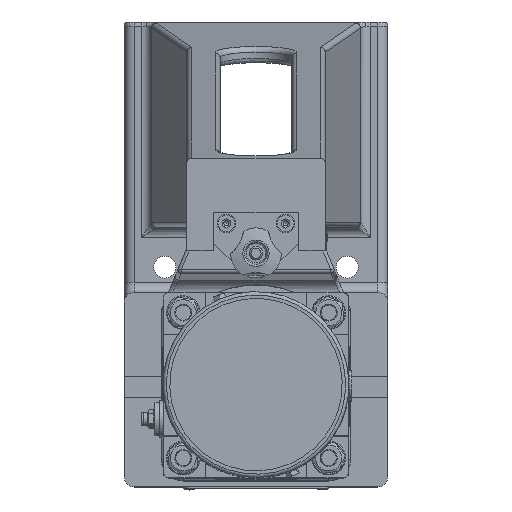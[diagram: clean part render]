
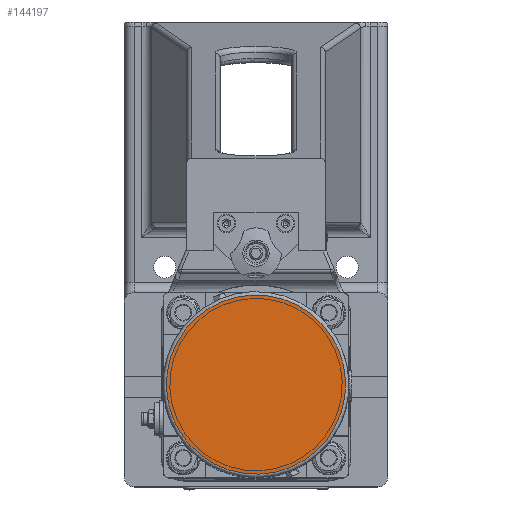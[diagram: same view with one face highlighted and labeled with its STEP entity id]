
A CAD part, top view. The second image highlights one B-rep face of the part: STEP entity #144197.
In plain terms, the highlighted planar face has unit normal (0, 0, 1).
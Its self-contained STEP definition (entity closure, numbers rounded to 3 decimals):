
#38404=PLANE('',#151459);
#45376=FACE_OUTER_BOUND('',#53093,.T.);
#53093=EDGE_LOOP('',(#111968));
#58361=CIRCLE('',#151458,53.);
#65372=VERTEX_POINT('',#213254);
#82133=EDGE_CURVE('',#65372,#65372,#58361,.T.);
#111968=ORIENTED_EDGE('',*,*,#82133,.F.);
#144197=ADVANCED_FACE('',(#45376),#38404,.F.);
#151458=AXIS2_PLACEMENT_3D('',#213255,#168612,#168613);
#151459=AXIS2_PLACEMENT_3D('',#213256,#168614,#168615);
#168612=DIRECTION('center_axis',(0.,0.,
-1.));
#168613=DIRECTION('ref_axis',(-0.924,-0.383,0.));
#168614=DIRECTION('center_axis',(0.,0.,
-1.));
#168615=DIRECTION('ref_axis',(-0.924,-0.383,0.));
#213254=CARTESIAN_POINT('',(48.966,6.282,592.));
#213255=CARTESIAN_POINT('Origin',(0.,-14.,
592.));
#213256=CARTESIAN_POINT('Origin',(0.,-14.,
592.));
